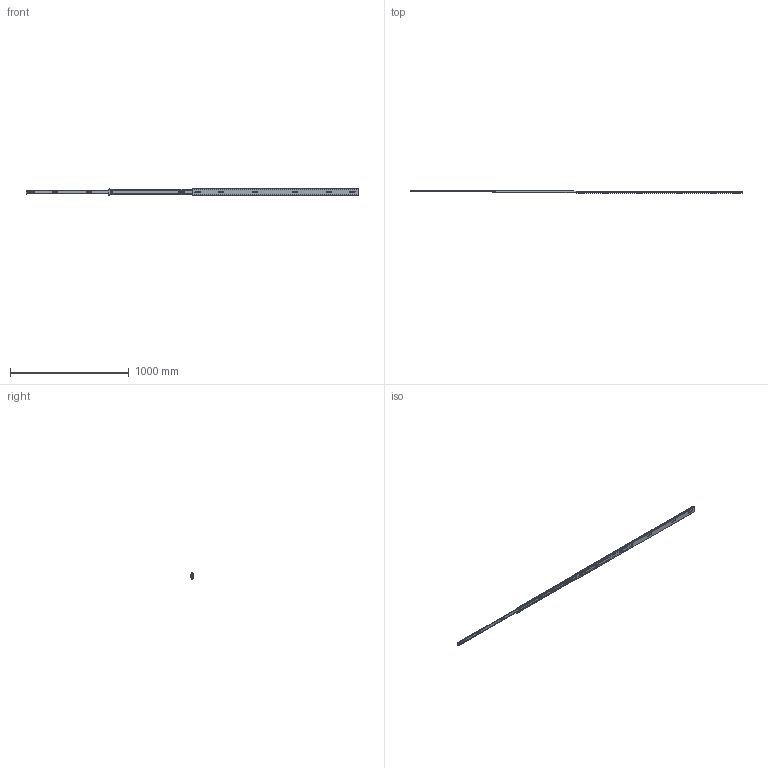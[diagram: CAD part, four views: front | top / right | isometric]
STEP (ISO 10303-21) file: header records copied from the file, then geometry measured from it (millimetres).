
FILE_DESCRIPTION((''),'2;1');
FILE_NAME('1057-C-56_ASM','2025-10-24T',('蔽翩'),(''),'CREO PARAMETRIC BY PTC INC, 2018220','CREO PARAMETRIC BY PTC INC, 2018220','');
FILE_SCHEMA(('CONFIG_CONTROL_DESIGN'));
Products named in the file (21): KP-57-01WEIKE-31______________; MAODING-WAI______________; 1057DAZHUJIA-20GE111; 1057ZHUJIADANWEIJIAO1234_; 1057-5-6GANZHU1______________; 1057DAZHUJIA-20GE_12______ASM; 1057-C-20-KE_______________ASM; KP-57-01ZHONGGUI-36______; PEIJIAN-22______________; ZHUANJIAO112______________; LIUJIAO-DING11______________; MAODING-P______________; 1057-XIAOJIAOLUN56; PEIJIAN-ZHONG_______________ASM; 1057XIAOZHUJIA___2011__; 1057XIAOZHUJIA-20GE11___ASM; KP-57-01ZHONGGUI-36_______ASM; KP-57-01NEIGUI-242; XIN-JIAOGUAN56; KP-57-01NEIGUI-242_ASM; 1057-C-56_ASM
Assembly tree (227 placements, depth 4):
  1057-C-56_ASM
    1057-C-20-KE_______________ASM
      KP-57-01WEIKE-31______________
      MAODING-WAI______________  x2
      1057DAZHUJIA-20GE_12______ASM
        1057DAZHUJIA-20GE111
        1057ZHUJIADANWEIJIAO1234_  x2
        1057-5-6GANZHU1______________  x100
    KP-57-01ZHONGGUI-36_______ASM
      KP-57-01ZHONGGUI-36______
      PEIJIAN-ZHONG_______________ASM  x2
        PEIJIAN-22______________
        ZHUANJIAO112______________
        LIUJIAO-DING11______________
        MAODING-P______________
        1057-XIAOJIAOLUN56
      MAODING-WAI______________  x2
      1057XIAOZHUJIA-20GE11___ASM
        1057XIAOZHUJIA___2011__
        1057-5-6GANZHU1______________  x100
        1057ZHUJIADANWEIJIAO1234_  x2
    KP-57-01NEIGUI-242_ASM
      KP-57-01NEIGUI-242
      XIN-JIAOGUAN56  x2
Bounding box: 2800 x 19.8 x 57.69 mm (x, y, z)
Volume: 610354.3 mm3; surface area: 712852.6 mm2
Topology: 225 solids, 225 shells, 5474 faces, 15242 edges, 9412 vertices
Faces by surface type: plane 2448, cylinder 2248, sphere 406, bspline 154, cone 114, torus 96, extrusion 8
Entity records: 158649 total; most frequent: CARTESIAN_POINT 32983, DIRECTION 26776, ORIENTED_EDGE 26030, EDGE_CURVE 13015, AXIS2_PLACEMENT_3D 9228, VERTEX_POINT 8370, VECTOR 8320, LINE 8316
